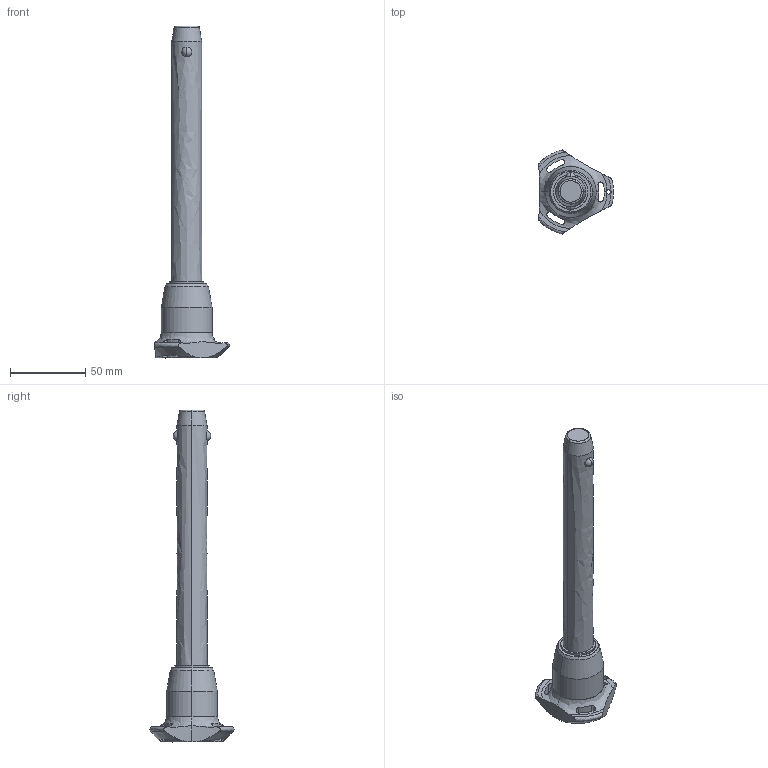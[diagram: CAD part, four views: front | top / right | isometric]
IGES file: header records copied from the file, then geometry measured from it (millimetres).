
Start section: SolidWorks IGES file using analytic representation for surfaces
Global section: file name: C:\Users\ianosborn\Desktop\QR1714_v2\QR1714_v2_20251112_IGES\QR1714.M20-150-S.igs; native system: SolidWorks 2019; preprocessor: SolidWorks 2019; author: IanOsborn; date: 251112.103053; units: millimetre
Bounding box: 50.03 x 56.02 x 221.2 mm (x, y, z)
Surface area: 20392 mm2 (no closed solid volume)
Topology: 0 solids, 0 shells, 65 faces, 1310 edges, 1306 vertices
Faces by surface type: revolution 50, bspline 15
